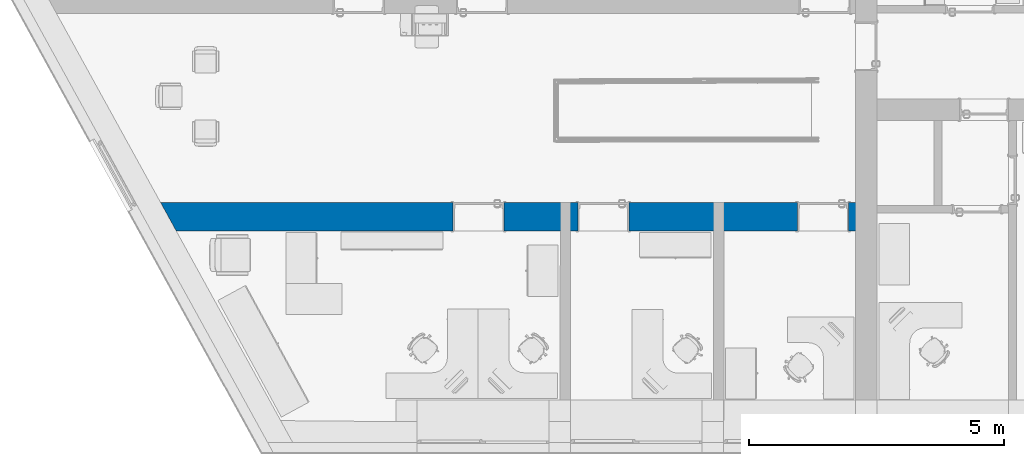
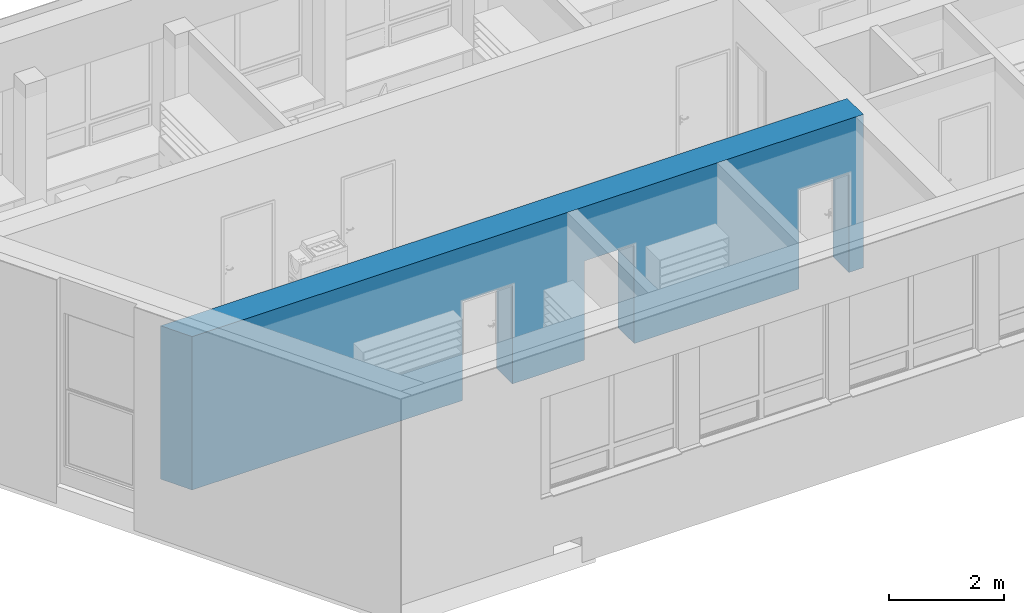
# One storey, part 9 of 194: 1 wall, 3 openings.
"""IFC2X3 building model written with IfcOpenShell, lengths in millimetres."""

from ifc_helpers import new_model, entity, si_unit, converted_unit, derived_unit, money_unit, direction, frame, origin_with_axes, origin_2d_with_axis, place, context, subcontext, project, spatial, polyline, rectangle, outline, extrude, material, layer, layer_set, layer_usage, type_object, element, save


model = new_model("IFC2X3")

# Units and contexts
model_context = context("Model", 3, precision=1e-05, world=origin_with_axes(), true_north=direction((0.0, 1.0)))
body_context = subcontext(model_context, "Body", "Model", "MODEL_VIEW")
ifc_project = project(units=[si_unit("LENGTHUNIT", "METRE", prefix="MILLI"), si_unit("AREAUNIT", "SQUARE_METRE"), si_unit("VOLUMEUNIT", "CUBIC_METRE"), converted_unit("PLANEANGLEUNIT", "DEGREE", entity("IfcPlaneAngleMeasure", 0.0174532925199), si_unit("PLANEANGLEUNIT", "RADIAN"), dimensions=[0, 0, 0, 0, 0, 0, 0]), si_unit("SOLIDANGLEUNIT", "STERADIAN"), money_unit("EUR"), converted_unit("TIMEUNIT", "Year", entity("IfcTimeMeasure", 31556926.0), si_unit("TIMEUNIT", "SECOND"), dimensions=[0, 0, 1, 0, 0, 0, 0]), si_unit("MASSUNIT", "GRAM", prefix="KILO"), si_unit("THERMODYNAMICTEMPERATUREUNIT", "DEGREE_CELSIUS"), si_unit("LUMINOUSINTENSITYUNIT", "LUMEN"), si_unit("ENERGYUNIT", "JOULE", prefix="MEGA"), derived_unit("THERMALCONDUCTANCEUNIT", [(si_unit("POWERUNIT", "WATT"), 1), (si_unit("LENGTHUNIT", "METRE"), -1), (si_unit("THERMODYNAMICTEMPERATUREUNIT", "KELVIN"), -1)]), derived_unit("SPECIFICHEATCAPACITYUNIT", [(si_unit("ENERGYUNIT", "JOULE"), 1), (si_unit("MASSUNIT", "GRAM", prefix="KILO"), -1), (si_unit("THERMODYNAMICTEMPERATUREUNIT", "KELVIN"), -1)]), derived_unit("MASSDENSITYUNIT", [(si_unit("MASSUNIT", "GRAM", prefix="KILO"), 1), (si_unit("VOLUMEUNIT", "CUBIC_METRE"), -1)])], contexts=[model_context])

# Site, building, storey
site_placement = place(None, origin_with_axes())
site = spatial("IfcSite", under=ifc_project, at=site_placement, Name="Site", CompositionType="ELEMENT")
building_placement = place(site_placement, origin_with_axes())
building = spatial("IfcBuilding", under=site, at=building_placement, Name="Building", CompositionType="ELEMENT")
storey_placement = place(building_placement, frame((0.0, 0.0, 3000.0), z_axis=(0.0, 0.0, 1.0), x_axis=(1.0, 0.0, 0.0)))
storey = spatial("IfcBuildingStorey", under=building, at=storey_placement, Name="2 KORRUS", CompositionType="ELEMENT", Elevation=3000.0)

# Wall, openings
ifc_material = material(Name="Kivi -Ol.Olev Konstruktsioon")
ifc_layer = layer(ifc_material, 560.0, ventilated="UNKNOWN")
ifc_layer_set = layer_set([ifc_layer], Name="ol.olev ss 560")
ifc_layer_usage = layer_usage(ifc_layer_set, "AXIS2", "POSITIVE", -560.0)
wall_type = type_object("IfcWallType", Name="SW - 022", PredefinedType="NOTDEFINED")
wall_placement = place(storey_placement, frame((1637.96989268, 63605.3928576, 0.0), z_axis=(0.0, 0.0, 1.0), x_axis=(1.0, 0.0, 0.0)))
wall = element("IfcWallStandardCase", 1, at=wall_placement, inside=storey, type_object=wall_type, material=ifc_layer_usage, Name="ol.olev ss 560", context=body_context, shape_type="SweptSolid", body=[
    extrude(outline(polyline([(799.20733456, -560.0), (14253.4017171, -560.0), (14253.4017171, 0.0), (490.871099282, 0.0), (799.20733456, -560.0)])), origin_with_axes(), (0.0, 0.0, 1.0), 3250.0),
])
opening_1_placement = place(wall_placement, frame((13464.6567744, 0.0, 0.0), z_axis=(0.0, 0.0, 1.0), x_axis=(1.0, 0.0, 0.0)))
element("IfcOpeningElement", 2, at=opening_1_placement, cuts=wall, Name="Siseuks * Door 22", context=body_context, shape_type="SweptSolid", body=[
    extrude(rectangle(XDim=1000.0, YDim=2100.0, at=origin_2d_with_axis()), frame((0.0, -560.0, 1050.0), z_axis=(0.0, -1.0, 0.0), x_axis=(-1.0, 0.0, 0.0)), (0.0, 0.0, -1.0), 1680.0),
    extrude(rectangle(XDim=1074.0, YDim=2137.0, at=origin_2d_with_axis()), frame((0.0, -560.0, 1068.5), z_axis=(0.0, -1.0, 0.0), x_axis=(-1.0, 0.0, 0.0)), (0.0, 0.0, 1.0), 560.0),
    extrude(rectangle(XDim=1074.0, YDim=2137.0, at=origin_2d_with_axis()), frame((0.0, 0.0, 1068.5), z_axis=(0.0, 1.0, 0.0), x_axis=(-1.0, 0.0, 0.0)), (0.0, 0.0, 1.0), 560.0),
])
opening_2_placement = place(wall_placement, frame((9159.57666247, 0.0, 0.0), z_axis=(0.0, 0.0, 1.0), x_axis=(1.0, 0.0, 0.0)))
element("IfcOpeningElement", 3, at=opening_2_placement, cuts=wall, Name="Siseuks * Door 22", context=body_context, shape_type="SweptSolid", body=[
    extrude(rectangle(XDim=1000.0, YDim=2100.0, at=origin_2d_with_axis()), frame((0.0, -560.0, 1050.0), z_axis=(0.0, -1.0, 0.0), x_axis=(-1.0, 0.0, 0.0)), (0.0, 0.0, -1.0), 1680.0),
    extrude(rectangle(XDim=1074.0, YDim=2137.0, at=origin_2d_with_axis()), frame((0.0, -560.0, 1068.5), z_axis=(0.0, -1.0, 0.0), x_axis=(-1.0, 0.0, 0.0)), (0.0, 0.0, 1.0), 560.0),
    extrude(rectangle(XDim=1074.0, YDim=2137.0, at=origin_2d_with_axis()), frame((0.0, 0.0, 1068.5), z_axis=(0.0, 1.0, 0.0), x_axis=(-1.0, 0.0, 0.0)), (0.0, 0.0, 1.0), 560.0),
])
opening_3_placement = place(wall_placement, frame((6718.2204359, 0.0, 0.0), z_axis=(0.0, 0.0, 1.0), x_axis=(1.0, 0.0, 0.0)))
element("IfcOpeningElement", 4, at=opening_3_placement, cuts=wall, Name="Siseuks * Door 22", context=body_context, shape_type="SweptSolid", body=[
    extrude(rectangle(XDim=1000.0, YDim=2100.0, at=origin_2d_with_axis()), frame((0.0, -560.0, 1050.0), z_axis=(0.0, -1.0, 0.0), x_axis=(-1.0, 0.0, 0.0)), (0.0, 0.0, -1.0), 1680.0),
    extrude(rectangle(XDim=1074.0, YDim=2137.0, at=origin_2d_with_axis()), frame((0.0, -560.0, 1068.5), z_axis=(0.0, -1.0, 0.0), x_axis=(-1.0, 0.0, 0.0)), (0.0, 0.0, 1.0), 560.0),
    extrude(rectangle(XDim=1074.0, YDim=2137.0, at=origin_2d_with_axis()), frame((0.0, 0.0, 1068.5), z_axis=(0.0, 1.0, 0.0), x_axis=(-1.0, 0.0, 0.0)), (0.0, 0.0, 1.0), 560.0),
])

save(model, "model.ifc")
